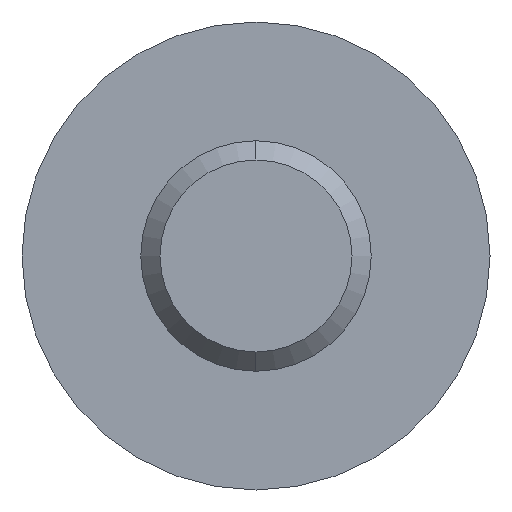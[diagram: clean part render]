
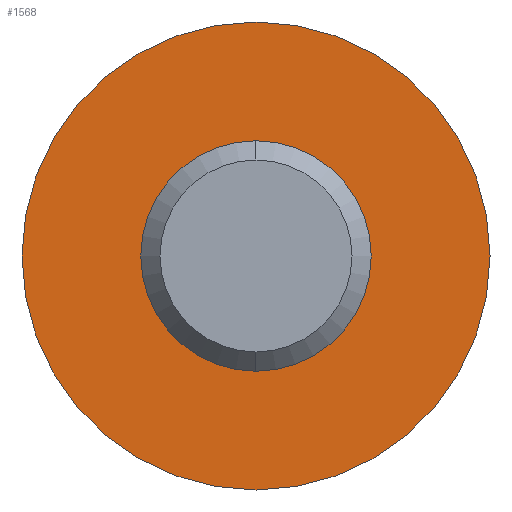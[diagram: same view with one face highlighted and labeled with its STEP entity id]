
A CAD part, left-side view. The second image highlights one B-rep face of the part: STEP entity #1568.
In plain terms, the highlighted planar face has unit normal (-1, 0, 0).
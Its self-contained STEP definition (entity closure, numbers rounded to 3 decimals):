
#14 = CARTESIAN_POINT ( 'NONE',  ( 0., 0., -2.925 ) ) ;
#61 = VERTEX_POINT ( 'NONE', #14 ) ;
#181 = ORIENTED_EDGE ( 'NONE', *, *, #1281, .T. ) ;
#232 = ORIENTED_EDGE ( 'NONE', *, *, #1310, .F. ) ;
#249 = ORIENTED_EDGE ( 'NONE', *, *, #1712, .F. ) ;
#283 = ORIENTED_EDGE ( 'NONE', *, *, #1830, .T. ) ;
#329 = CARTESIAN_POINT ( 'NONE',  ( 0., 0., -1.2 ) ) ;
#507 = AXIS2_PLACEMENT_3D ( 'NONE', #511, #1666, #663 ) ;
#511 = CARTESIAN_POINT ( 'NONE',  ( 0., 0., 0. ) ) ;
#524 = CARTESIAN_POINT ( 'NONE',  ( 0., 0., 0. ) ) ;
#572 = AXIS2_PLACEMENT_3D ( 'NONE', #524, #1686, #679 ) ;
#602 = CARTESIAN_POINT ( 'NONE',  ( 0., 0., 2.925 ) ) ;
#612 = AXIS2_PLACEMENT_3D ( 'NONE', #1457, #795, #1085 ) ;
#663 = DIRECTION ( 'NONE',  ( 0., 0., -1. ) ) ;
#679 = DIRECTION ( 'NONE',  ( 0., 0., -1. ) ) ;
#682 = VERTEX_POINT ( 'NONE', #329 ) ;
#749 = DIRECTION ( 'NONE',  ( 1., 0., 0. ) ) ;
#763 = AXIS2_PLACEMENT_3D ( 'NONE', #2050, #2022, #2081 ) ;
#772 = AXIS2_PLACEMENT_3D ( 'NONE', #1150, #749, #2059 ) ;
#795 = DIRECTION ( 'NONE',  ( -1., 0., 0. ) ) ;
#835 = VERTEX_POINT ( 'NONE', #602 ) ;
#866 = EDGE_LOOP ( 'NONE', ( #181, #283 ) ) ;
#1050 = CARTESIAN_POINT ( 'NONE',  ( 0., 0., 1.2 ) ) ;
#1085 = DIRECTION ( 'NONE',  ( 0., 0., 1. ) ) ;
#1150 = CARTESIAN_POINT ( 'NONE',  ( 0., 0., 0. ) ) ;
#1208 = EDGE_LOOP ( 'NONE', ( #232, #249 ) ) ;
#1247 = PLANE ( 'NONE',  #612 ) ;
#1281 = EDGE_CURVE ( 'NONE', #682, #2110, #2070, .T. ) ;
#1310 = EDGE_CURVE ( 'NONE', #61, #835, #2040, .T. ) ;
#1398 = FACE_OUTER_BOUND ( 'NONE', #1208, .T. ) ;
#1457 = CARTESIAN_POINT ( 'NONE',  ( 0., 1.2, 0. ) ) ;
#1568 = ADVANCED_FACE ( 'NONE', ( #1860, #1398 ), #1247, .T. ) ;
#1641 = CIRCLE ( 'NONE', #507, 1.2 ) ;
#1666 = DIRECTION ( 'NONE',  ( 1., 0., 0. ) ) ;
#1686 = DIRECTION ( 'NONE',  ( 1., 0., 0. ) ) ;
#1712 = EDGE_CURVE ( 'NONE', #835, #61, #1762, .T. ) ;
#1762 = CIRCLE ( 'NONE', #572, 2.925 ) ;
#1830 = EDGE_CURVE ( 'NONE', #2110, #682, #1641, .T. ) ;
#1860 = FACE_BOUND ( 'NONE', #866, .T. ) ;
#2022 = DIRECTION ( 'NONE',  ( 1., 0., 0. ) ) ;
#2040 = CIRCLE ( 'NONE', #763, 2.925 ) ;
#2050 = CARTESIAN_POINT ( 'NONE',  ( 0., 0., 0. ) ) ;
#2059 = DIRECTION ( 'NONE',  ( 0., 0., -1. ) ) ;
#2070 = CIRCLE ( 'NONE', #772, 1.2 ) ;
#2081 = DIRECTION ( 'NONE',  ( 0., 0., -1. ) ) ;
#2110 = VERTEX_POINT ( 'NONE', #1050 ) ;
